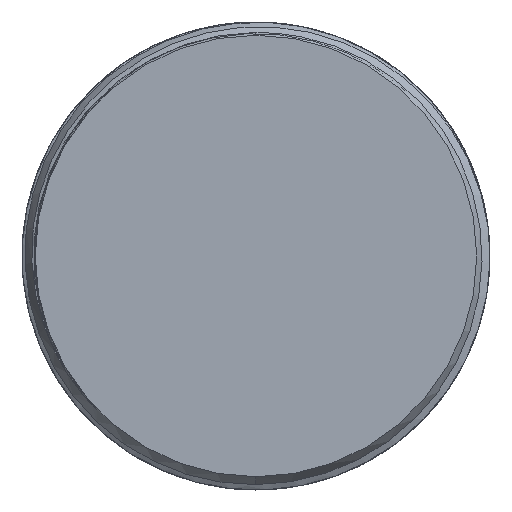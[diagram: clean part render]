
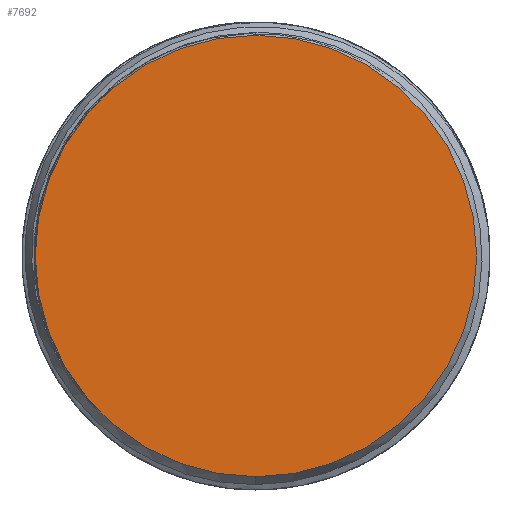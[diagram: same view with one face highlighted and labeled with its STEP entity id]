
A CAD part, left-side view. The second image highlights one B-rep face of the part: STEP entity #7692.
In plain terms, the highlighted planar face has unit normal (-1, 0, 0).
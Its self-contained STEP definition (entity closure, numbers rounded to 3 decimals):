
#262=CARTESIAN_POINT('',(0.,0.,0.));
#263=DIRECTION('',(-1.,0.,0.));
#264=DIRECTION('',(0.,0.,-1.));
#265=AXIS2_PLACEMENT_3D('',#262,#263,#264);
#267=CARTESIAN_POINT('',(0.,0.,0.));
#268=DIRECTION('',(1.,0.,0.));
#269=DIRECTION('',(0.,0.,-1.));
#270=AXIS2_PLACEMENT_3D('',#267,#268,#269);
#7141=CARTESIAN_POINT('',(0.,0.,-14.15));
#7142=CARTESIAN_POINT('',(0.,0.,14.15));
#7143=VERTEX_POINT('',#7141);
#7144=VERTEX_POINT('',#7142);
#7683=CARTESIAN_POINT('',(0.,0.,0.));
#7684=DIRECTION('',(1.,0.,0.));
#7685=DIRECTION('',(0.,0.,1.));
#7686=AXIS2_PLACEMENT_3D('',#7683,#7684,#7685);
#7687=PLANE('',#7686);
#7688=ORIENTED_EDGE('',*,*,#7677,.F.);
#7689=ORIENTED_EDGE('',*,*,#7377,.T.);
#7690=EDGE_LOOP('',(#7688,#7689));
#7691=FACE_OUTER_BOUND('',#7690,.F.);
#7692=ADVANCED_FACE('',(#7691),#7687,.F.);
#266=CIRCLE('',#265,14.15);
#271=CIRCLE('',#270,14.15);
#7377=EDGE_CURVE('',#7143,#7144,#271,.T.);
#7677=EDGE_CURVE('',#7143,#7144,#266,.T.);
